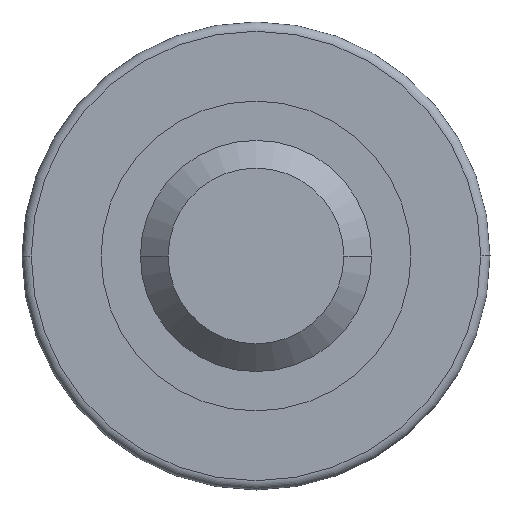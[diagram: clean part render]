
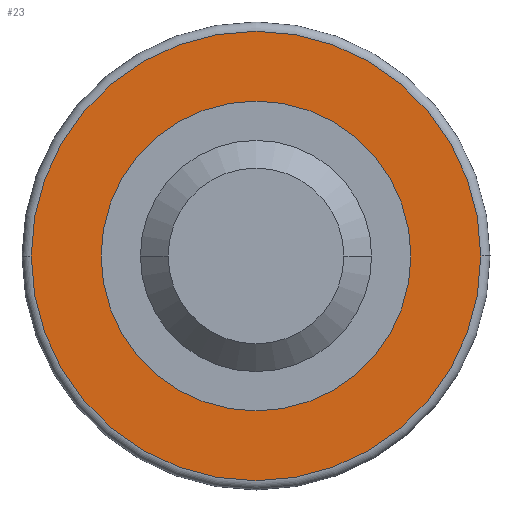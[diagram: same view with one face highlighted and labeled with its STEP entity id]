
A CAD part, left-side view. The second image highlights one B-rep face of the part: STEP entity #23.
In plain terms, the highlighted planar face has unit normal (-1, 0, 0).
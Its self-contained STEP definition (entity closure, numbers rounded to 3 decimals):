
#13 = ORIENTED_EDGE ( 'NONE', *, *, #694, .F. ) ;
#23 = ADVANCED_FACE ( 'NONE', ( #310, #311 ), #312, .T. ) ;
#55 = VERTEX_POINT ( 'NONE', #561 ) ;
#78 = EDGE_LOOP ( 'NONE', ( #13, #699 ) ) ;
#105 = EDGE_CURVE ( 'NONE', #55, #687, #124, .T. ) ;
#124 = CIRCLE ( 'NONE', #125, 33.5 ) ;
#125 = AXIS2_PLACEMENT_3D ( 'NONE', #126, #127, #128 ) ;
#126 = CARTESIAN_POINT ( 'NONE',  ( 15., 0., 0. ) ) ;
#127 = DIRECTION ( 'NONE',  ( 1., 0., 0. ) ) ;
#128 = DIRECTION ( 'NONE',  ( 0., 1., 0. ) ) ;
#226 = CARTESIAN_POINT ( 'NONE',  ( 15., 33.5, 0. ) ) ;
#260 = CIRCLE ( 'NONE', #261, 48.6 ) ;
#261 = AXIS2_PLACEMENT_3D ( 'NONE', #262, #263, #265 ) ;
#262 = CARTESIAN_POINT ( 'NONE',  ( 15., 0., 0. ) ) ;
#263 = DIRECTION ( 'NONE',  ( 1., 0., 0. ) ) ;
#265 = DIRECTION ( 'NONE',  ( 0., 1., 0. ) ) ;
#310 = FACE_BOUND ( 'NONE', #724, .T. ) ;
#311 = FACE_OUTER_BOUND ( 'NONE', #78, .T. ) ;
#312 = PLANE ( 'NONE',  #313 ) ;
#313 = AXIS2_PLACEMENT_3D ( 'NONE', #314, #315, #316 ) ;
#314 = CARTESIAN_POINT ( 'NONE',  ( 15., 33.5, 0. ) ) ;
#315 = DIRECTION ( 'NONE',  ( -1., 0., 0. ) ) ;
#316 = DIRECTION ( 'NONE',  ( 0., -1., 0. ) ) ;
#389 = ORIENTED_EDGE ( 'NONE', *, *, #105, .T. ) ;
#398 = CARTESIAN_POINT ( 'NONE',  ( 15., -48.6, 0. ) ) ;
#416 = CIRCLE ( 'NONE', #417, 33.5 ) ;
#417 = AXIS2_PLACEMENT_3D ( 'NONE', #418, #419, #420 ) ;
#418 = CARTESIAN_POINT ( 'NONE',  ( 15., 0., 0. ) ) ;
#419 = DIRECTION ( 'NONE',  ( 1., 0., 0. ) ) ;
#420 = DIRECTION ( 'NONE',  ( 0., 1., 0. ) ) ;
#510 = VERTEX_POINT ( 'NONE', #398 ) ;
#539 = CIRCLE ( 'NONE', #540, 48.6 ) ;
#540 = AXIS2_PLACEMENT_3D ( 'NONE', #541, #542, #543 ) ;
#541 = CARTESIAN_POINT ( 'NONE',  ( 15., 0., 0. ) ) ;
#542 = DIRECTION ( 'NONE',  ( 1., 0., 0. ) ) ;
#543 = DIRECTION ( 'NONE',  ( 0., 1., 0. ) ) ;
#559 = CARTESIAN_POINT ( 'NONE',  ( 15., 48.6, 0. ) ) ;
#561 = CARTESIAN_POINT ( 'NONE',  ( 15., -33.5, 0. ) ) ;
#673 = EDGE_CURVE ( 'NONE', #510, #676, #539, .T. ) ;
#676 = VERTEX_POINT ( 'NONE', #559 ) ;
#687 = VERTEX_POINT ( 'NONE', #226 ) ;
#689 = ORIENTED_EDGE ( 'NONE', *, *, #707, .T. ) ;
#694 = EDGE_CURVE ( 'NONE', #676, #510, #260, .T. ) ;
#699 = ORIENTED_EDGE ( 'NONE', *, *, #673, .F. ) ;
#707 = EDGE_CURVE ( 'NONE', #687, #55, #416, .T. ) ;
#724 = EDGE_LOOP ( 'NONE', ( #689, #389 ) ) ;
